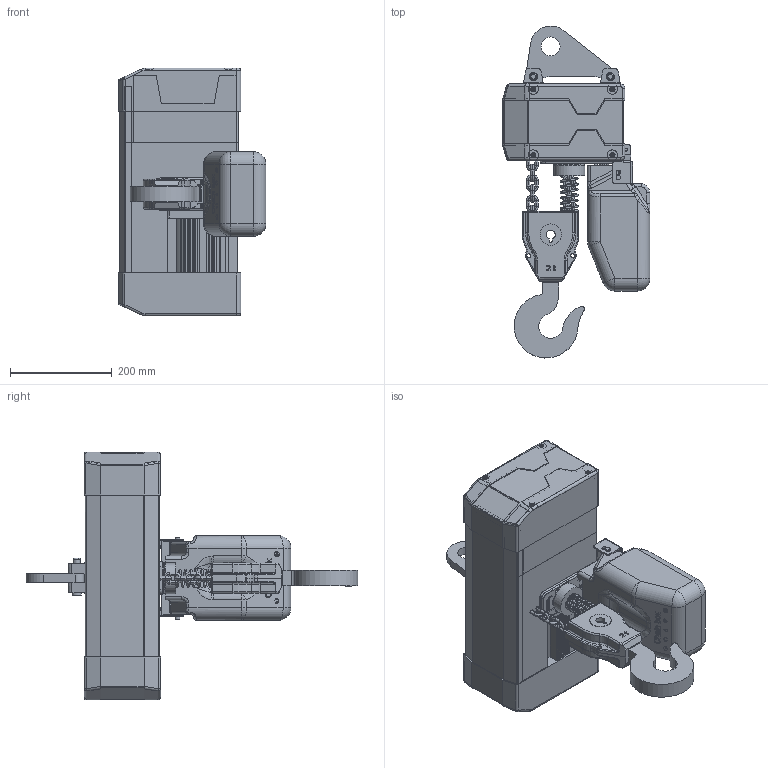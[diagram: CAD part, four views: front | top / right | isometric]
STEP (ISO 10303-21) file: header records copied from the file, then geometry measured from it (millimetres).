
FILE_DESCRIPTION(/* description */ ('CAx-IF Rec.Pracs.---Representation and Presentation of Product Manufacturing Information (PMI)---4.0---2014-10-13','CAx-IF Rec.Pracs.---3D Tessellated Geometry---0.4---2014-09-14','2;1'),/* implementation_level */ '2;1');
FILE_NAME(/* name */ 'YJ 02-02 固定式',/* time_stamp */ '2026-06-03T16:28:03+08:00',/* author */ (''),/* organization */ (''),/* preprocessor_version */ 'ST-DEVELOPER v16.7',/* originating_system */ $,/* authorisation */ $);
FILE_SCHEMA (('AP242_MANAGED_MODEL_BASED_3D_ENGINEERING_MIM_LF { 1 0 10303 442 20130219 1 4 }'));
Products named in the file (1): YJ 02-02 固定式
Bounding box: 289.59 x 650.95 x 486.2 mm (x, y, z)
Volume: 12889491.5 mm3; surface area: 1441122.6 mm2
Topology: 33 solids, 40 shells, 3452 faces, 8398 edges, 5048 vertices
Faces by surface type: plane 1201, cylinder 1112, bspline 476, torus 446, cone 143, sphere 74
Full cylindrical faces by diameter (mm): 1.467 x1, 1.707 x1, 2.14 x1, 2.5 x2, 3.4 x2, 4 x2, 4.2 x4, 4.5 x4, 4.826 x4, 5.795 x4, 5.8 x2, 6 x2, 6.2 x2, 6.6 x8, 6.8 x4, 7 x2, 7.46 x1, 8 x4, 8.5 x4, 9 x6, 10 x4, 10.2 x8, 12.8 x4, 14 x2, 15 x2, 15.037 x4, 16.5 x1, 18 x2, 20 x1, 24.5 x1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
Entity records: 117826 total; most frequent: CARTESIAN_POINT 40326, ORIENTED_EDGE 16100, DIRECTION 15575, EDGE_CURVE 8050, AXIS2_PLACEMENT_3D 5789, VERTEX_POINT 4970, LINE 4013, VECTOR 4013
